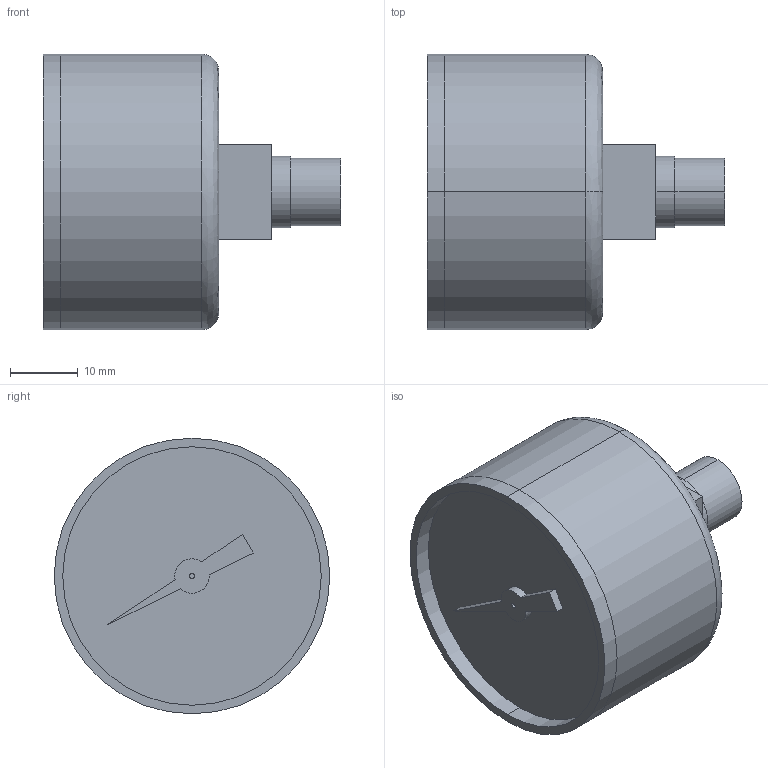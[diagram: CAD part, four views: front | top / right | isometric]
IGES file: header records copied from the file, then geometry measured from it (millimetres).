
Global section: file name: C:\Documents and Settings\Administrator\My Documents\PersonalProject\pressuregage.igs; native system: AutoDesk Inventor R2.0 ; preprocessor: AutoDesk Inventor Iges Exporter R2.0; author: No Author specified; organization: No Organization specified; date: 20020115.190850; units: inch
Bounding box: 43.9 x 40.64 x 40.64 mm (x, y, z)
Surface area: 7814.3 mm2 (no closed solid volume)
Topology: 0 solids, 0 shells, 40 faces, 170 edges, 170 vertices
Faces by surface type: revolution 20, bspline 20
